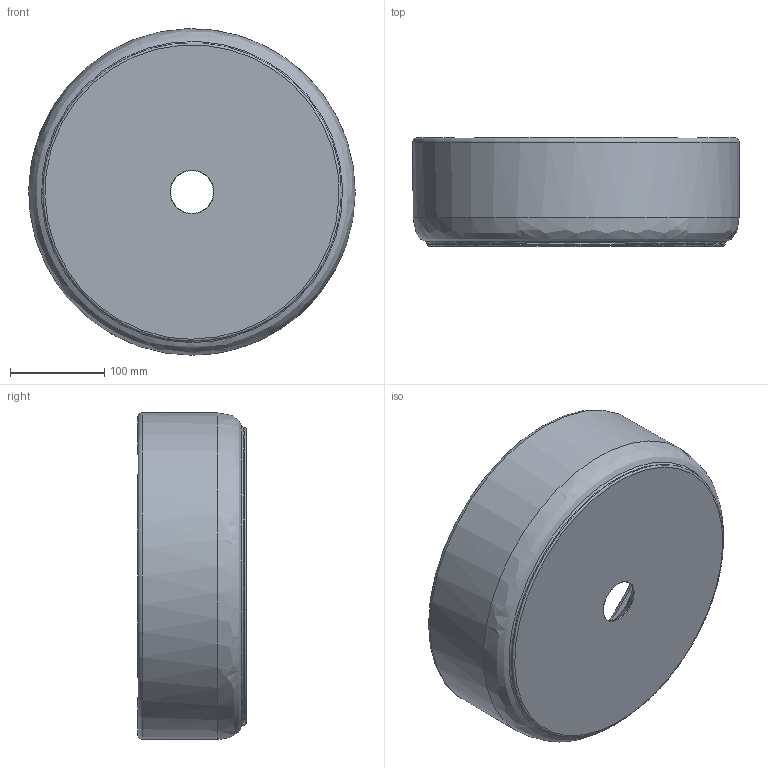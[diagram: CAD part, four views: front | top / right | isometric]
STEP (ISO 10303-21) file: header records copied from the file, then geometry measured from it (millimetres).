
FILE_DESCRIPTION (( 'STEP AP203' ), '1' );
FILE_NAME ('F70122 F70125 Marmic Round WBL 346x114.STEP', '2021-12-01T15:53:45', ( 'RIHO' ), ( '' ), 'SwSTEP 2.0', 'SolidWorks 2020', '' );
FILE_SCHEMA (( 'CONFIG_CONTROL_DESIGN' ));
Length unit declared in the file: millimetre
Products named in the file (1): F70122 F70125 Marmic Round WBL 346x114
Bounding box: 346 x 115 x 346 mm (x, y, z)
Volume: 3312790.4 mm3; surface area: 369030 mm2
Topology: 1 solids, 1 shells, 14 faces, 33 edges, 21 vertices
Faces by surface type: bspline 5, torus 5, plane 2, cylinder 1, cone 1
Full cylindrical faces by diameter (mm): 346 x1
Entity records: 2492 total; most frequent: CARTESIAN_POINT 2204, DIRECTION 38, ORIENTED_EDGE 28, EDGE_LOOP 28, FACE_OUTER_BOUND 24, AXIS2_PLACEMENT_3D 19, VERTEX_POINT 14, ADVANCED_FACE 14
